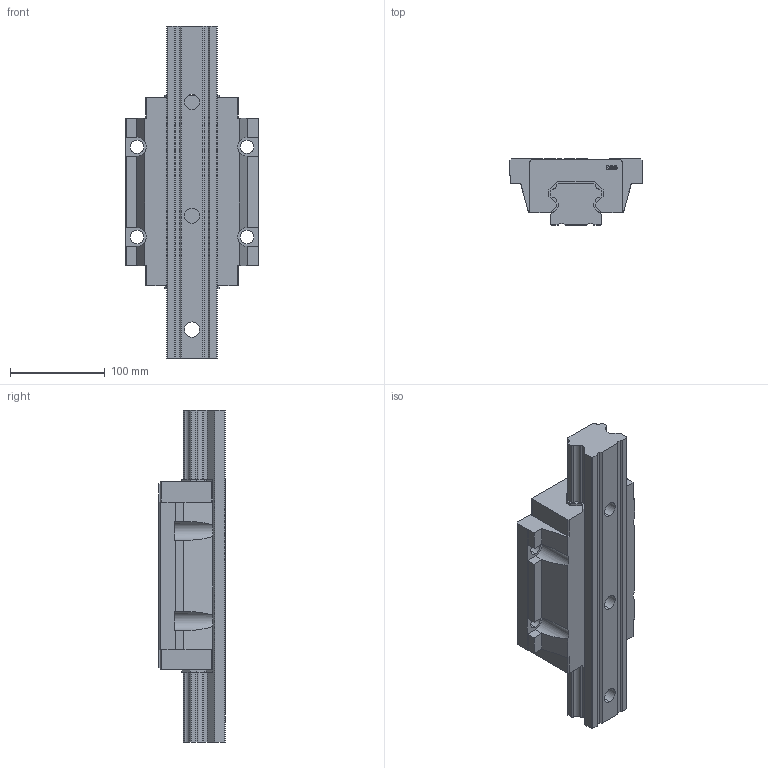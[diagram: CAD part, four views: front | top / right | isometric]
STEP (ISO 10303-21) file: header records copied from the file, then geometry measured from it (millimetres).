
FILE_DESCRIPTION (( 'STEP AP214' ), '1' );
FILE_NAME ('7.1014 Lineaarikelkka HTW55HA.STEP', '2026-03-11T11:21:50', ( '' ), ( '' ), 'SwSTEP 2.0', 'SolidWorks 2025', '' );
FILE_SCHEMA (( 'AUTOMOTIVE_DESIGN' ));
Length unit declared in the file: millimetre
Products named in the file (4): HG_RAIL0_R_ANY; HG_BLOCK_HGWHC_ANY; 7.1014 Lineaarikelkka HTW55HA; HG_BLOCK_SS_ANY_ASM
Assembly tree (3 placements, depth 3):
  7.1014 Lineaarikelkka HTW55HA
    HG_BLOCK_SS_ANY_ASM
      HG_BLOCK_HGWHC_ANY
    HG_RAIL0_R_ANY
Bounding box: 140 x 70 x 350 mm (x, y, z)
Volume: 1682957.3 mm3; surface area: 184617 mm2
Topology: 2 solids, 2 shells, 750 faces, 2127 edges, 1418 vertices
Faces by surface type: plane 689, cylinder 36, bspline 25
Entity records: 34343 total; most frequent: CARTESIAN_POINT 6547, ORIENTED_EDGE 4254, DIRECTION 3605, EDGE_CURVE 2127, VECTOR 1997, LINE 1997, VERTEX_POINT 1418, AXIS2_PLACEMENT_3D 804
